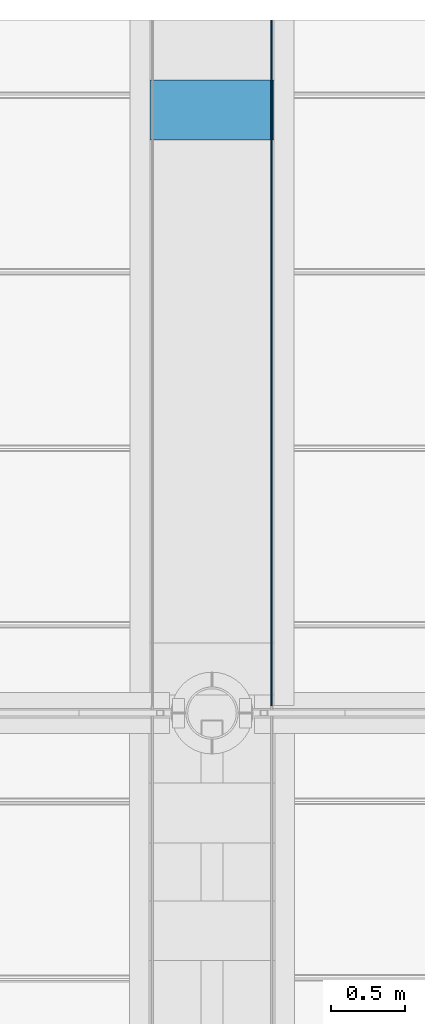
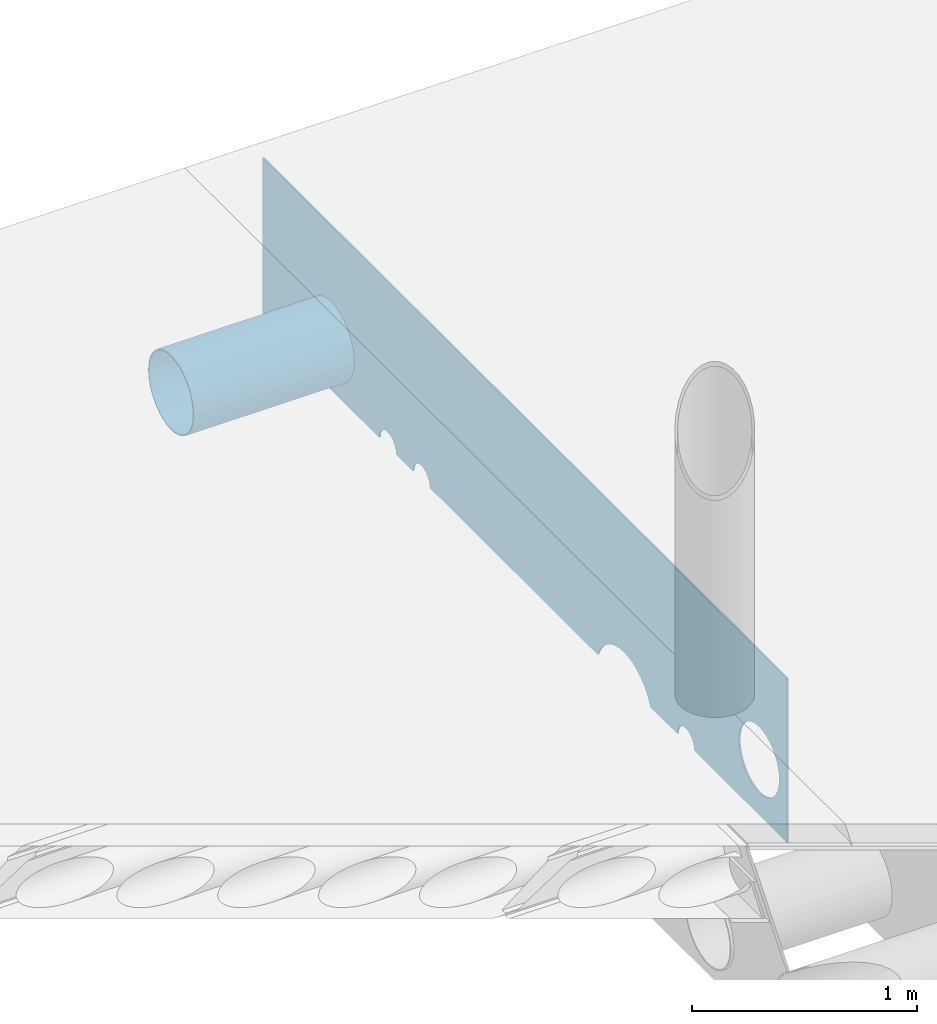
# One storey, part 10 of 21: 2 beams.
"""IFC2X3 building model written with IfcOpenShell, lengths in millimetres."""

from ifc_helpers import new_model, entity, si_unit, converted_unit, derived_unit, direction, frame, origin_with_axes, place, context, subcontext, project, spatial, faceted_brep, material, type_object, element, save


model = new_model("IFC2X3")

# Units and contexts
model_context = context("Model", 3, precision=0.01, world=frame((0.0, 4.29681676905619e-09, 0.0)), true_north=direction((4.01073788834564e-13, 1.0)))
plan_context = context("Plan", 3, precision=0.01, world=frame((0.0, 4.29681676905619e-09, 0.0)), true_north=direction((4.01073788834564e-13, 1.0)))
body_context = subcontext(model_context, "Body", "Model", "MODEL_VIEW")
ifc_project = project(units=[converted_unit("PLANEANGLEUNIT", "DEGREE", entity("IfcPositiveLengthMeasure", 0.0174532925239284), si_unit("PLANEANGLEUNIT", "RADIAN"), dimensions=[0, 0, 0, 0, 0, 0, 0]), si_unit("AREAUNIT", "SQUARE_METRE"), si_unit("LENGTHUNIT", "METRE", prefix="MILLI"), si_unit("MASSUNIT", "GRAM", prefix="KILO"), si_unit("POWERUNIT", "WATT"), si_unit("PRESSUREUNIT", "PASCAL", prefix="KILO"), si_unit("FORCEUNIT", "NEWTON", prefix="KILO"), si_unit("ELECTRICVOLTAGEUNIT", "VOLT"), si_unit("ELECTRICCURRENTUNIT", "AMPERE"), si_unit("THERMODYNAMICTEMPERATUREUNIT", "DEGREE_CELSIUS"), si_unit("TIMEUNIT", "SECOND"), si_unit("VOLUMEUNIT", "CUBIC_METRE"), derived_unit("LINEARVELOCITYUNIT", [(si_unit("LENGTHUNIT", "METRE"), 1), (si_unit("TIMEUNIT", "SECOND"), -1)]), derived_unit("VOLUMETRICFLOWRATEUNIT", [(si_unit("VOLUMEUNIT", "CUBIC_METRE"), 1), (si_unit("TIMEUNIT", "SECOND"), -1)]), derived_unit("THERMALTRANSMITTANCEUNIT", [(si_unit("POWERUNIT", "WATT"), 1), (si_unit("THERMODYNAMICTEMPERATUREUNIT", "KELVIN"), -1), (si_unit("AREAUNIT", "SQUARE_METRE"), -1)]), derived_unit("SOUNDPRESSUREUNIT", [(si_unit("PRESSUREUNIT", "PASCAL"), 1)])], contexts=[model_context, plan_context])

# Site, building, storey
site_placement = place(None, frame((0.0, -4.29681676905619e-09, 0.0), z_axis=(0.0, 0.0, 1.0), x_axis=(1.0, 0.0, 0.0)))
site = spatial("IfcSite", under=ifc_project, at=site_placement, Name="Gardermoen", CompositionType="ELEMENT")
building_placement = place(site_placement, frame((0.0, 4.29681676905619e-09, 0.0), z_axis=(0.0, 0.0, 1.0), x_axis=(1.0, 0.0, 0.0)))
building = spatial("IfcBuilding", under=site, at=building_placement, Name="TS", CompositionType="ELEMENT")
storey_placement = place(building_placement, origin_with_axes())
storey = spatial("IfcBuildingStorey", under=building, at=storey_placement, Name="F", CompositionType="ELEMENT", Elevation=0.0)

# Beams
ifc_material = material(Name="STEEL/S355")
beam_type_1 = type_object("IfcBeamType", Name="RØR406.4X6.3", PredefinedType="NOTDEFINED")
beam_1_placement = place(storey_placement, frame((718423.0, 445600.0, 210175.0), z_axis=(0.0, 0.0, 1.0), x_axis=(-0.999999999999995, -9.99999902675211e-08, 0.0)))
element("IfcBeam", 1, at=beam_1_placement, inside=storey, type_object=beam_type_1, material=ifc_material, Name="STÅLBJELKE", ObjectType="RØR406.4X6.3", context=body_context, shape_type="Brep", body=[
    faceted_brep([(0.0, -196.900000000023, 0.0), (0.0, -193.908646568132, 34.1913261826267), (846.0, -193.908646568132, 34.1913261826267), (846.0, -196.900000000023, 0.0), (0.0, -185.025477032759, 67.3437662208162), (846.0, -185.025477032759, 67.3437662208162), (0.0, -170.520402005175, 98.4500000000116), (846.0, -170.520402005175, 98.4500000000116), (0.0, -150.834150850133, 126.564880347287), (846.0, -150.834150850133, 126.564880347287), (0.0, -126.564880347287, 150.834150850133), (846.0, -126.564880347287, 150.834150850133), (0.0, -98.4500000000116, 170.520402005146), (846.0, -98.4500000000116, 170.520402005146), (0.0, -67.3437662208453, 185.025477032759), (846.0, -67.3437662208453, 185.025477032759), (0.0, -34.1913261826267, 193.908646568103), (846.0, -34.1913261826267, 193.908646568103), (0.0, 0.0, 196.899999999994), (846.0, 0.0, 196.899999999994), (0.0, 34.1913261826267, 193.908646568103), (846.0, 34.1913261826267, 193.908646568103), (0.0, 67.3437662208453, 185.025477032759), (846.0, 67.3437662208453, 185.025477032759), (0.0, 98.4500000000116, 170.520402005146), (846.0, 98.4500000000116, 170.520402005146), (0.0, 126.564880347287, 150.834150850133), (846.0, 126.564880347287, 150.834150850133), (0.0, 150.834150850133, 126.564880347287), (846.0, 150.834150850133, 126.564880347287), (0.0, 170.520402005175, 98.4500000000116), (846.0, 170.520402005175, 98.4500000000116), (0.0, 185.025477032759, 67.3437662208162), (846.0, 185.025477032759, 67.3437662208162), (0.0, 193.908646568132, 34.1913261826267), (846.0, 193.908646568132, 34.1913261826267), (0.0, 196.900000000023, 0.0), (846.0, 196.900000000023, 0.0), (0.0, 193.908646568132, -34.1913261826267), (846.0, 193.908646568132, -34.1913261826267), (0.0, 185.025477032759, -67.3437662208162), (846.0, 185.025477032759, -67.3437662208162), (0.0, 170.520402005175, -98.4500000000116), (846.0, 170.520402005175, -98.4500000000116), (0.0, 150.834150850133, -126.564880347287), (846.0, 150.834150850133, -126.564880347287), (0.0, 126.564880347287, -150.834150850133), (846.0, 126.564880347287, -150.834150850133), (0.0, 98.4500000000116, -170.520402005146), (846.0, 98.4500000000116, -170.520402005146), (0.0, 67.3437662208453, -185.025477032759), (846.0, 67.3437662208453, -185.025477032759), (0.0, 34.1913261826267, -193.908646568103), (846.0, 34.1913261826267, -193.908646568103), (0.0, 0.0, -196.899999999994), (846.0, 0.0, -196.899999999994), (0.0, -34.1913261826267, -193.908646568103), (846.0, -34.1913261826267, -193.908646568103), (0.0, -67.3437662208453, -185.025477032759), (846.0, -67.3437662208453, -185.025477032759), (0.0, -98.4500000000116, -170.520402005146), (846.0, -98.4500000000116, -170.520402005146), (0.0, -126.564880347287, -150.834150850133), (846.0, -126.564880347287, -150.834150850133), (0.0, -150.834150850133, -126.564880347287), (846.0, -150.834150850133, -126.564880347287), (0.0, -170.520402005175, -98.4500000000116), (846.0, -170.520402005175, -98.4500000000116), (0.0, -185.025477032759, -67.3437662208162), (846.0, -185.025477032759, -67.3437662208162), (0.0, -193.908646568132, -34.1913261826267), (846.0, -193.908646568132, -34.1913261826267), (0.0, -203.200000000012, 0.0), (0.0, -200.112935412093, -35.2853097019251), (846.0, -200.112935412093, -35.2853097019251), (846.0, -203.200000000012, 0.0), (0.0, -190.945540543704, -69.4984931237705), (846.0, -190.945540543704, -69.4984931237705), (0.0, -175.976362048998, -101.600000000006), (846.0, -175.976362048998, -101.600000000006), (0.0, -155.660230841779, -130.614442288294), (846.0, -155.660230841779, -130.614442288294), (0.0, -130.614442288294, -155.660230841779), (846.0, -130.614442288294, -155.660230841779), (0.0, -101.599999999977, -175.976362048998), (846.0, -101.599999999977, -175.976362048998), (0.0, -69.4984931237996, -190.945540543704), (846.0, -69.4984931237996, -190.945540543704), (0.0, -35.2853097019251, -200.112935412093), (846.0, -35.2853097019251, -200.112935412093), (0.0, 0.0, -203.200000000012), (846.0, 0.0, -203.200000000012), (0.0, 35.2853097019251, -200.112935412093), (846.0, 35.2853097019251, -200.112935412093), (0.0, 69.4984931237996, -190.945540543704), (846.0, 69.4984931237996, -190.945540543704), (0.0, 101.599999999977, -175.976362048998), (846.0, 101.599999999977, -175.976362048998), (0.0, 130.614442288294, -155.660230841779), (846.0, 130.614442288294, -155.660230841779), (0.0, 155.660230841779, -130.614442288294), (846.0, 155.660230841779, -130.614442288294), (0.0, 175.976362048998, -101.600000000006), (846.0, 175.976362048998, -101.600000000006), (0.0, 190.945540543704, -69.4984931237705), (846.0, 190.945540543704, -69.4984931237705), (0.0, 200.112935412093, -35.2853097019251), (846.0, 200.112935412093, -35.2853097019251), (0.0, 203.200000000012, 0.0), (846.0, 203.200000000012, 0.0), (0.0, 200.112935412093, 35.2853097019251), (846.0, 200.112935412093, 35.2853097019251), (0.0, 190.945540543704, 69.4984931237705), (846.0, 190.945540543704, 69.4984931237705), (0.0, 175.976362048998, 101.600000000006), (846.0, 175.976362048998, 101.600000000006), (0.0, 155.660230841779, 130.614442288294), (846.0, 155.660230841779, 130.614442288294), (0.0, 130.614442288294, 155.660230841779), (846.0, 130.614442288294, 155.660230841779), (0.0, 101.599999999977, 175.976362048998), (846.0, 101.599999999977, 175.976362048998), (0.0, 69.4984931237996, 190.945540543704), (846.0, 69.4984931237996, 190.945540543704), (0.0, 35.2853097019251, 200.112935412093), (846.0, 35.2853097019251, 200.112935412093), (0.0, 0.0, 203.200000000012), (846.0, 0.0, 203.200000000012), (0.0, -35.2853097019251, 200.112935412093), (846.0, -35.2853097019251, 200.112935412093), (0.0, -69.4984931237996, 190.945540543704), (846.0, -69.4984931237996, 190.945540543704), (0.0, -101.599999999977, 175.976362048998), (846.0, -101.599999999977, 175.976362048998), (0.0, -130.614442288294, 155.660230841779), (846.0, -130.614442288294, 155.660230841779), (0.0, -155.660230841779, 130.614442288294), (846.0, -155.660230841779, 130.614442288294), (0.0, -175.976362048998, 101.600000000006), (846.0, -175.976362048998, 101.600000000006), (0.0, -190.945540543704, 69.4984931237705), (846.0, -190.945540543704, 69.4984931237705), (0.0, -200.112935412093, 35.2853097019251), (846.0, -200.112935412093, 35.2853097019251)], [[[0, 1, 2, 3]], [[1, 4, 5, 2]], [[4, 6, 7, 5]], [[6, 8, 9, 7]], [[8, 10, 11, 9]], [[10, 12, 13, 11]], [[12, 14, 15, 13]], [[14, 16, 17, 15]], [[16, 18, 19, 17]], [[18, 20, 21, 19]], [[20, 22, 23, 21]], [[22, 24, 25, 23]], [[24, 26, 27, 25]], [[26, 28, 29, 27]], [[28, 30, 31, 29]], [[30, 32, 33, 31]], [[32, 34, 35, 33]], [[34, 36, 37, 35]], [[36, 38, 39, 37]], [[38, 40, 41, 39]], [[40, 42, 43, 41]], [[42, 44, 45, 43]], [[44, 46, 47, 45]], [[46, 48, 49, 47]], [[48, 50, 51, 49]], [[50, 52, 53, 51]], [[52, 54, 55, 53]], [[54, 56, 57, 55]], [[56, 58, 59, 57]], [[58, 60, 61, 59]], [[60, 62, 63, 61]], [[62, 64, 65, 63]], [[64, 66, 67, 65]], [[66, 68, 69, 67]], [[68, 70, 71, 69]], [[70, 0, 3, 71]], [[72, 73, 74, 75]], [[73, 76, 77, 74]], [[76, 78, 79, 77]], [[78, 80, 81, 79]], [[80, 82, 83, 81]], [[82, 84, 85, 83]], [[84, 86, 87, 85]], [[86, 88, 89, 87]], [[88, 90, 91, 89]], [[90, 92, 93, 91]], [[92, 94, 95, 93]], [[94, 96, 97, 95]], [[96, 98, 99, 97]], [[98, 100, 101, 99]], [[100, 102, 103, 101]], [[102, 104, 105, 103]], [[104, 106, 107, 105]], [[106, 108, 109, 107]], [[108, 110, 111, 109]], [[110, 112, 113, 111]], [[112, 114, 115, 113]], [[114, 116, 117, 115]], [[116, 118, 119, 117]], [[118, 120, 121, 119]], [[120, 122, 123, 121]], [[122, 124, 125, 123]], [[124, 126, 127, 125]], [[126, 128, 129, 127]], [[128, 130, 131, 129]], [[130, 132, 133, 131]], [[132, 134, 135, 133]], [[134, 136, 137, 135]], [[136, 138, 139, 137]], [[138, 140, 141, 139]], [[140, 142, 143, 141]], [[142, 72, 75, 143]], [[77, 79, 81, 83, 85, 87, 89, 91, 93, 95, 97, 99, 101, 103, 105, 107, 109, 111, 113, 115, 117, 119, 121, 123, 125, 127, 129, 131, 133, 135, 137, 139, 141, 143, 75, 74], [5, 7, 9, 11, 13, 15, 17, 19, 21, 23, 25, 27, 29, 31, 33, 35, 37, 39, 41, 43, 45, 47, 49, 51, 53, 55, 57, 59, 61, 63, 65, 67, 69, 71, 3, 2]], [[142, 140, 138, 136, 134, 132, 130, 128, 126, 124, 122, 120, 118, 116, 114, 112, 110, 108, 106, 104, 102, 100, 98, 96, 94, 92, 90, 88, 86, 84, 82, 80, 78, 76, 73, 72], [70, 68, 66, 64, 62, 60, 58, 56, 54, 52, 50, 48, 46, 44, 42, 40, 38, 36, 34, 32, 30, 28, 26, 24, 22, 20, 18, 16, 14, 12, 10, 8, 6, 4, 1, 0]]]),
])
beam_type_2 = type_object("IfcBeamType", Name="1470*8", PredefinedType="NOTDEFINED")
beam_2_placement = place(storey_placement, frame((718404.0, 441550.0, 210055.0), z_axis=(0.0, 0.0, 1.0), x_axis=(0.0, 1.0, 0.0)))
element("IfcBeam", 2, at=beam_2_placement, inside=storey, type_object=beam_type_2, Name="STÅLBJELKE", ObjectType="1470*8", context=body_context, shape_type="Brep", body=[
    faceted_brep([(4661.4244638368, 4.0, 735.0), (4661.4244638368, -4.0, 735.0), (0.0, -4.0, 735.0), (0.0, 4.0, 735.0), (0.0, -4.0, -155.0), (0.0, 4.0, -155.0), (428.5, -4.0, 145.0), (428.5, 4.0, 145.0), (425.070172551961, 4.0, 179.823622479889), (425.070172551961, -4.0, 179.823622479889), (425.070172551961, -4.0, 110.176377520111), (425.070172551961, 4.0, 110.176377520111), (414.912496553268, -4.0, 76.6910073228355), (414.912496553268, 4.0, 76.6910073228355), (398.417325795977, -4.0, 45.8307134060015), (398.417325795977, 4.0, 45.8307134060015), (376.218560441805, -4.0, 18.7814395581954), (376.218560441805, 4.0, 18.7814395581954), (349.169286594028, -4.0, -3.41732579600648), (349.169286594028, 4.0, -3.41732579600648), (318.308992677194, -4.0, -19.9124965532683), (318.308992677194, 4.0, -19.9124965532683), (284.82362247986, -4.0, -30.0701725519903), (284.82362247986, 4.0, -30.0701725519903), (250.0, -4.0, -33.5), (250.0, 4.0, -33.5), (215.17637752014, -4.0, -30.0701725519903), (215.17637752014, 4.0, -30.0701725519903), (181.691007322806, -4.0, -19.9124965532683), (181.691007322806, 4.0, -19.9124965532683), (150.830713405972, -4.0, -3.41732579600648), (150.830713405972, 4.0, -3.41732579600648), (123.781439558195, -4.0, 18.7814395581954), (123.781439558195, 4.0, 18.7814395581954), (101.582674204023, -4.0, 45.8307134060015), (101.582674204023, 4.0, 45.8307134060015), (85.0875034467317, -4.0, 76.6910073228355), (85.0875034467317, 4.0, 76.6910073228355), (74.9298274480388, -4.0, 110.176377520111), (74.9298274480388, 4.0, 110.176377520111), (71.5, -4.0, 145.0), (71.5, 4.0, 145.0), (74.9298274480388, -4.0, 179.823622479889), (74.9298274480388, 4.0, 179.823622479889), (85.0875034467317, -4.0, 213.308992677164), (85.0875034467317, 4.0, 213.308992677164), (101.582674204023, -4.0, 244.169286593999), (101.582674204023, 4.0, 244.169286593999), (123.781439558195, -4.0, 271.218560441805), (123.781439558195, 4.0, 271.218560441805), (150.830713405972, -4.0, 293.417325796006), (150.830713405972, 4.0, 293.417325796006), (181.691007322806, -4.0, 309.912496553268), (181.691007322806, 4.0, 309.912496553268), (215.17637752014, -4.0, 320.07017255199), (215.17637752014, 4.0, 320.07017255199), (250.0, -4.0, 323.5), (250.0, 4.0, 323.5), (284.82362247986, -4.0, 320.07017255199), (284.82362247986, 4.0, 320.07017255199), (318.308992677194, -4.0, 309.912496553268), (318.308992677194, 4.0, 309.912496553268), (349.169286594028, -4.0, 293.417325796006), (349.169286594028, 4.0, 293.417325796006), (376.218560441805, -4.0, 271.218560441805), (376.218560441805, 4.0, 271.218560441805), (398.417325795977, -4.0, 244.169286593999), (398.417325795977, 4.0, 244.169286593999), (414.912496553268, -4.0, 213.308992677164), (414.912496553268, 4.0, 213.308992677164), (975.0, -4.0, -155.0), (975.0, 4.0, -155.0), (972.44443697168, 4.0, -135.588571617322), (972.44443697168, -4.0, -135.588571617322), (827.55556302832, -4.0, -135.588571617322), (827.55556302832, 4.0, -135.588571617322), (825.0, 4.0, -155.0), (825.0, -4.0, -155.0), (835.048094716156, -4.0, -117.5), (835.048094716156, 4.0, -117.5), (846.966991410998, -4.0, -101.966991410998), (846.966991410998, 4.0, -101.966991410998), (862.5, -4.0, -90.0480947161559), (862.5, 4.0, -90.0480947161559), (880.588571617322, -4.0, -82.5555630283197), (880.588571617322, 4.0, -82.5555630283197), (900.0, -4.0, -80.0), (900.0, 4.0, -80.0), (919.411428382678, -4.0, -82.5555630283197), (919.411428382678, 4.0, -82.5555630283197), (937.5, -4.0, -90.0480947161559), (937.5, 4.0, -90.0480947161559), (953.033008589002, -4.0, -101.966991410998), (953.033008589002, 4.0, -101.966991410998), (964.951905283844, -4.0, -117.5), (964.951905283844, 4.0, -117.5), (1216.26219191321, 4.0, -155.0), (1216.26219191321, -4.0, -155.0), (1222.79333633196, -4.0, -139.23242256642), (1222.79333633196, 4.0, -139.23242256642), (1243.70066643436, -4.0, -105.114760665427), (1243.70066643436, 4.0, -105.114760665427), (1269.68777079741, -4.0, -74.6877707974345), (1269.68777079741, 4.0, -74.6877707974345), (1300.1147606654, -4.0, -48.7006664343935), (1300.1147606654, 4.0, -48.7006664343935), (1334.23242256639, -4.0, -27.7933363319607), (1334.23242256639, 4.0, -27.7933363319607), (1371.20066643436, -4.0, -12.4805883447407), (1371.20066643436, 4.0, -12.4805883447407), (1410.10921141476, -4.0, -3.13947314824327), (1410.10921141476, 4.0, -3.13947314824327), (1450.0, -4.0, 0.0), (1450.0, 4.0, 0.0), (1489.89078858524, -4.0, -3.13947314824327), (1489.89078858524, 4.0, -3.13947314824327), (1528.79933356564, -4.0, -12.4805883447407), (1528.79933356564, 4.0, -12.4805883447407), (1565.76757743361, -4.0, -27.7933363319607), (1565.76757743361, 4.0, -27.7933363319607), (1599.8852393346, -4.0, -48.7006664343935), (1599.8852393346, 4.0, -48.7006664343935), (1630.31222920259, -4.0, -74.6877707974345), (1630.31222920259, 4.0, -74.6877707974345), (1656.29933356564, -4.0, -105.114760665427), (1656.29933356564, 4.0, -105.114760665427), (1677.20666366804, -4.0, -139.23242256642), (1677.20666366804, 4.0, -139.23242256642), (1683.73780808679, -4.0, -155.0), (1683.73780808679, 4.0, -155.0), (3325.0, -4.0, -155.0), (3325.0, 4.0, -155.0), (3322.44443697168, 4.0, -135.588571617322), (3322.44443697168, -4.0, -135.588571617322), (3177.55556302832, -4.0, -135.588571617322), (3177.55556302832, 4.0, -135.588571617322), (3175.0, 4.0, -155.0), (3175.0, -4.0, -155.0), (3185.04809471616, -4.0, -117.5), (3185.04809471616, 4.0, -117.5), (3196.966991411, -4.0, -101.966991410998), (3196.966991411, 4.0, -101.966991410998), (3212.5, -4.0, -90.0480947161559), (3212.5, 4.0, -90.0480947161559), (3230.58857161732, -4.0, -82.5555630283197), (3230.58857161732, 4.0, -82.5555630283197), (3250.0, -4.0, -80.0), (3250.0, 4.0, -80.0), (3269.41142838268, -4.0, -82.5555630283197), (3269.41142838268, 4.0, -82.5555630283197), (3287.5, -4.0, -90.0480947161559), (3287.5, 4.0, -90.0480947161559), (3303.033008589, -4.0, -101.966991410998), (3303.033008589, 4.0, -101.966991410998), (3314.95190528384, -4.0, -117.5), (3314.95190528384, 4.0, -117.5), (3625.0, -4.0, -155.0), (3625.0, 4.0, -155.0), (3622.44443697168, 4.0, -135.588571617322), (3622.44443697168, -4.0, -135.588571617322), (3477.55556302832, -4.0, -135.588571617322), (3477.55556302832, 4.0, -135.588571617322), (3475.0, 4.0, -155.0), (3475.0, -4.0, -155.0), (3485.04809471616, -4.0, -117.5), (3485.04809471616, 4.0, -117.5), (3496.966991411, -4.0, -101.966991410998), (3496.966991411, 4.0, -101.966991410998), (3512.5, -4.0, -90.0480947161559), (3512.5, 4.0, -90.0480947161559), (3530.58857161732, -4.0, -82.5555630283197), (3530.58857161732, 4.0, -82.5555630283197), (3550.0, -4.0, -80.0), (3550.0, 4.0, -80.0), (3569.41142838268, -4.0, -82.5555630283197), (3569.41142838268, 4.0, -82.5555630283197), (3587.5, -4.0, -90.0480947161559), (3587.5, 4.0, -90.0480947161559), (3603.033008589, -4.0, -101.966991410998), (3603.033008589, 4.0, -101.966991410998), (3614.95190528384, -4.0, -117.5), (3614.95190528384, 4.0, -117.5), (4254.0, -4.0, 120.0), (4254.0, 4.0, 120.0), (4250.90078161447, 4.0, 155.424228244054), (4250.90078161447, -4.0, 155.424228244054), (4250.90078161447, -4.0, 84.5757717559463), (4250.90078161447, 4.0, 84.5757717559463), (4241.69729464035, -4.0, 50.2278907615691), (4241.69729464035, 4.0, 50.2278907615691), (4226.66918237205, -4.0, 18.0), (4226.66918237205, 4.0, 18.0), (4206.27306639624, -4.0, -11.1286723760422), (4206.27306639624, 4.0, -11.1286723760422), (4181.12867237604, -4.0, -36.273066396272), (4181.12867237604, 4.0, -36.273066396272), (4152.0, -4.0, -56.6691823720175), (4152.0, 4.0, -56.6691823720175), (4119.77210923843, -4.0, -71.6972946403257), (4119.77210923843, 4.0, -71.6972946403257), (4085.42422824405, -4.0, -80.9007816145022), (4085.42422824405, 4.0, -80.9007816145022), (4050.0, -4.0, -84.0), (4050.0, 4.0, -84.0), (4014.57577175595, -4.0, -80.9007816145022), (4014.57577175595, 4.0, -80.9007816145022), (3980.22789076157, -4.0, -71.6972946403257), (3980.22789076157, 4.0, -71.6972946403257), (3948.0, -4.0, -56.6691823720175), (3948.0, 4.0, -56.6691823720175), (3918.87132762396, -4.0, -36.273066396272), (3918.87132762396, 4.0, -36.273066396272), (3893.72693360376, -4.0, -11.1286723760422), (3893.72693360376, 4.0, -11.1286723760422), (3873.33081762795, -4.0, 18.0), (3873.33081762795, 4.0, 18.0), (3858.3027053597, -4.0, 50.2278907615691), (3858.3027053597, 4.0, 50.2278907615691), (3849.09921838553, -4.0, 84.5757717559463), (3849.09921838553, 4.0, 84.5757717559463), (3846.0, -4.0, 120.0), (3846.0, 4.0, 120.0), (3849.09921838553, -4.0, 155.424228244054), (3849.09921838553, 4.0, 155.424228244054), (3858.3027053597, -4.0, 189.772109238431), (3858.3027053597, 4.0, 189.772109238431), (3873.33081762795, -4.0, 222.0), (3873.33081762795, 4.0, 222.0), (3893.72693360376, -4.0, 251.128672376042), (3893.72693360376, 4.0, 251.128672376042), (3918.87132762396, -4.0, 276.273066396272), (3918.87132762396, 4.0, 276.273066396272), (3948.0, -4.0, 296.669182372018), (3948.0, 4.0, 296.669182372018), (3980.22789076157, -4.0, 311.697294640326), (3980.22789076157, 4.0, 311.697294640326), (4014.57577175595, -4.0, 320.900781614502), (4014.57577175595, 4.0, 320.900781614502), (4050.0, -4.0, 324.0), (4050.0, 4.0, 324.0), (4085.42422824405, -4.0, 320.900781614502), (4085.42422824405, 4.0, 320.900781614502), (4119.77210923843, -4.0, 311.697294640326), (4119.77210923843, 4.0, 311.697294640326), (4152.0, -4.0, 296.669182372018), (4152.0, 4.0, 296.669182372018), (4181.12867237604, -4.0, 276.273066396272), (4181.12867237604, 4.0, 276.273066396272), (4206.27306639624, -4.0, 251.128672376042), (4206.27306639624, 4.0, 251.128672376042), (4226.66918237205, -4.0, 222.0), (4226.66918237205, 4.0, 222.0), (4241.69729464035, -4.0, 189.772109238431), (4241.69729464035, 4.0, 189.772109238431), (4661.4244638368, -4.0, -155.0), (4661.4244638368, 4.0, -155.0)], [[[0, 1, 2, 3]], [[4, 5, 3, 2]], [[6, 7, 8, 9]], [[10, 11, 7, 6]], [[12, 13, 11, 10]], [[14, 15, 13, 12]], [[16, 17, 15, 14]], [[18, 19, 17, 16]], [[20, 21, 19, 18]], [[22, 23, 21, 20]], [[24, 25, 23, 22]], [[26, 27, 25, 24]], [[28, 29, 27, 26]], [[30, 31, 29, 28]], [[32, 33, 31, 30]], [[34, 35, 33, 32]], [[36, 37, 35, 34]], [[38, 39, 37, 36]], [[40, 41, 39, 38]], [[42, 43, 41, 40]], [[44, 45, 43, 42]], [[46, 47, 45, 44]], [[48, 49, 47, 46]], [[50, 51, 49, 48]], [[52, 53, 51, 50]], [[54, 55, 53, 52]], [[56, 57, 55, 54]], [[58, 59, 57, 56]], [[60, 61, 59, 58]], [[62, 63, 61, 60]], [[64, 65, 63, 62]], [[66, 67, 65, 64]], [[68, 69, 67, 66]], [[9, 8, 69, 68]], [[70, 71, 72, 73]], [[74, 75, 76, 77]], [[78, 79, 75, 74]], [[80, 81, 79, 78]], [[82, 83, 81, 80]], [[84, 85, 83, 82]], [[86, 87, 85, 84]], [[88, 89, 87, 86]], [[90, 91, 89, 88]], [[92, 93, 91, 90]], [[94, 95, 93, 92]], [[73, 72, 95, 94]], [[96, 97, 98, 99]], [[100, 101, 99, 98]], [[102, 103, 101, 100]], [[104, 105, 103, 102]], [[106, 107, 105, 104]], [[108, 109, 107, 106]], [[110, 111, 109, 108]], [[112, 113, 111, 110]], [[114, 115, 113, 112]], [[116, 117, 115, 114]], [[118, 119, 117, 116]], [[120, 121, 119, 118]], [[122, 123, 121, 120]], [[124, 125, 123, 122]], [[126, 127, 125, 124]], [[128, 129, 127, 126]], [[130, 131, 132, 133]], [[134, 135, 136, 137]], [[138, 139, 135, 134]], [[140, 141, 139, 138]], [[142, 143, 141, 140]], [[144, 145, 143, 142]], [[146, 147, 145, 144]], [[148, 149, 147, 146]], [[150, 151, 149, 148]], [[152, 153, 151, 150]], [[154, 155, 153, 152]], [[133, 132, 155, 154]], [[156, 157, 158, 159]], [[160, 161, 162, 163]], [[164, 165, 161, 160]], [[166, 167, 165, 164]], [[168, 169, 167, 166]], [[170, 171, 169, 168]], [[172, 173, 171, 170]], [[174, 175, 173, 172]], [[176, 177, 175, 174]], [[178, 179, 177, 176]], [[180, 181, 179, 178]], [[159, 158, 181, 180]], [[182, 183, 184, 185]], [[186, 187, 183, 182]], [[188, 189, 187, 186]], [[190, 191, 189, 188]], [[192, 193, 191, 190]], [[194, 195, 193, 192]], [[196, 197, 195, 194]], [[198, 199, 197, 196]], [[200, 201, 199, 198]], [[202, 203, 201, 200]], [[204, 205, 203, 202]], [[206, 207, 205, 204]], [[208, 209, 207, 206]], [[210, 211, 209, 208]], [[212, 213, 211, 210]], [[214, 215, 213, 212]], [[216, 217, 215, 214]], [[218, 219, 217, 216]], [[220, 221, 219, 218]], [[222, 223, 221, 220]], [[224, 225, 223, 222]], [[226, 227, 225, 224]], [[228, 229, 227, 226]], [[230, 231, 229, 228]], [[232, 233, 231, 230]], [[234, 235, 233, 232]], [[236, 237, 235, 234]], [[238, 239, 237, 236]], [[240, 241, 239, 238]], [[242, 243, 241, 240]], [[244, 245, 243, 242]], [[246, 247, 245, 244]], [[248, 249, 247, 246]], [[250, 251, 249, 248]], [[252, 253, 251, 250]], [[185, 184, 253, 252]], [[1, 254, 156, 159, 180, 178, 176, 174, 172, 170, 168, 166, 164, 160, 163, 130, 133, 154, 152, 150, 148, 146, 144, 142, 140, 138, 134, 137, 128, 126, 124, 122, 120, 118, 116, 114, 112, 110, 108, 106, 104, 102, 100, 98, 97, 70, 73, 94, 92, 90, 88, 86, 84, 82, 80, 78, 74, 77, 4, 2], [186, 182, 185, 252, 250, 248, 246, 244, 242, 240, 238, 236, 234, 232, 230, 228, 226, 224, 222, 220, 218, 216, 214, 212, 210, 208, 206, 204, 202, 200, 198, 196, 194, 192, 190, 188], [10, 6, 9, 68, 66, 64, 62, 60, 58, 56, 54, 52, 50, 48, 46, 44, 42, 40, 38, 36, 34, 32, 30, 28, 26, 24, 22, 20, 18, 16, 14, 12]], [[5, 76, 75, 79, 81, 83, 85, 87, 89, 91, 93, 95, 72, 71, 96, 99, 101, 103, 105, 107, 109, 111, 113, 115, 117, 119, 121, 123, 125, 127, 129, 136, 135, 139, 141, 143, 145, 147, 149, 151, 153, 155, 132, 131, 162, 161, 165, 167, 169, 171, 173, 175, 177, 179, 181, 158, 157, 255, 0, 3], [184, 183, 187, 189, 191, 193, 195, 197, 199, 201, 203, 205, 207, 209, 211, 213, 215, 217, 219, 221, 223, 225, 227, 229, 231, 233, 235, 237, 239, 241, 243, 245, 247, 249, 251, 253], [8, 7, 11, 13, 15, 17, 19, 21, 23, 25, 27, 29, 31, 33, 35, 37, 39, 41, 43, 45, 47, 49, 51, 53, 55, 57, 59, 61, 63, 65, 67, 69]], [[254, 1, 0, 255]], [[255, 157, 156, 254]], [[77, 76, 5, 4]], [[97, 96, 71, 70]], [[137, 136, 129, 128]], [[163, 162, 131, 130]]], orient=[[False], [False], [False], [False], [False], [False], [False], [False], [False], [False], [False], [False], [False], [False], [False], [False], [False], [False], [False], [False], [False], [False], [False], [False], [False], [False], [False], [False], [False], [False], [False], [False], [False], [False], [False], [False], [False], [False], [False], [False], [False], [False], [False], [False], [False], [False], [False], [False], [False], [False], [False], [False], [False], [False], [False], [False], [False], [False], [False], [False], [False], [False], [False], [False], [False], [False], [False], [False], [False], [False], [False], [False], [False], [False], [False], [False], [False], [False], [False], [False], [False], [False], [False], [False], [False], [False], [False], [False], [False], [False], [False], [False], [False], [False], [False], [False], [False], [False], [False], [False], [False], [False], [False], [False], [False], [False], [False], [False], [False], [False], [False], [False], [False], [False], [False], [False], [False], [False], [False], [False], [False], [False], [False, False, False], [False, False, False], [False], [False], [False], [False], [False], [False]]),
])

save(model, "model.ifc")
